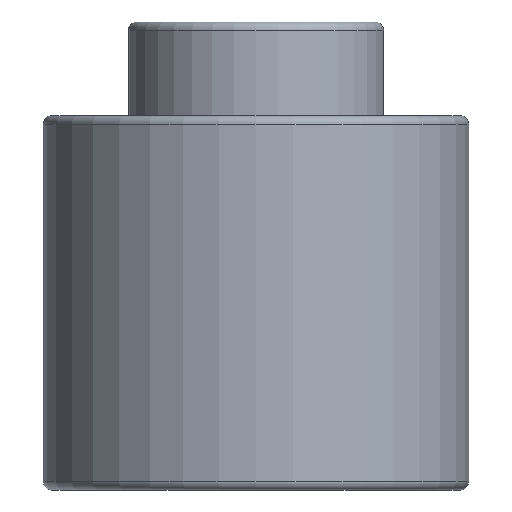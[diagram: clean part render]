
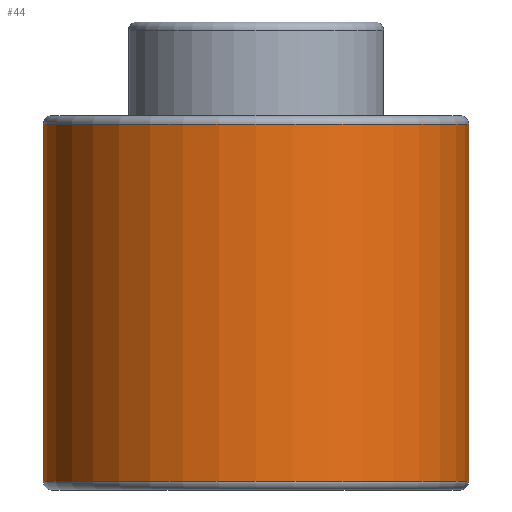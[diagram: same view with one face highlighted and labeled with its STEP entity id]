
A CAD part, front view. The second image highlights one B-rep face of the part: STEP entity #44.
In plain terms, the highlighted cylindrical face has radius 25 mm (diameter 50 mm), a full revolution.
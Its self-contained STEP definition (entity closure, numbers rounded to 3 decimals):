
#44=ADVANCED_FACE('',(#60,#61),#56,.T.);
#56=CYLINDRICAL_SURFACE('',#166,25.);
#60=FACE_BOUND('',#84,.T.);
#61=FACE_BOUND('',#85,.T.);
#84=EDGE_LOOP('',(#106));
#85=EDGE_LOOP('',(#107));
#106=ORIENTED_EDGE('',*,*,#141,.F.);
#107=ORIENTED_EDGE('',*,*,#142,.T.);
#128=VERTEX_POINT('',#237);
#129=VERTEX_POINT('',#239);
#141=EDGE_CURVE('',#128,#128,#152,.T.);
#142=EDGE_CURVE('',#129,#129,#153,.T.);
#152=CIRCLE('',#164,25.);
#153=CIRCLE('',#165,25.);
#164=AXIS2_PLACEMENT_3D('',#236,#189,#190);
#165=AXIS2_PLACEMENT_3D('',#238,#191,#192);
#166=AXIS2_PLACEMENT_3D('',#240,#193,#194);
#189=DIRECTION('',(0.,0.,-1.));
#190=DIRECTION('',(-1.,0.,0.));
#191=DIRECTION('',(0.,0.,-1.));
#192=DIRECTION('',(-1.,0.,0.));
#193=DIRECTION('',(0.,0.,-1.));
#194=DIRECTION('',(-1.,0.,0.));
#236=CARTESIAN_POINT('',(0.,0.,1.));
#237=CARTESIAN_POINT('',(-25.,0.,1.));
#238=CARTESIAN_POINT('',(0.,0.,43.));
#239=CARTESIAN_POINT('',(-25.,0.,43.));
#240=CARTESIAN_POINT('',(0.,0.,0.));
